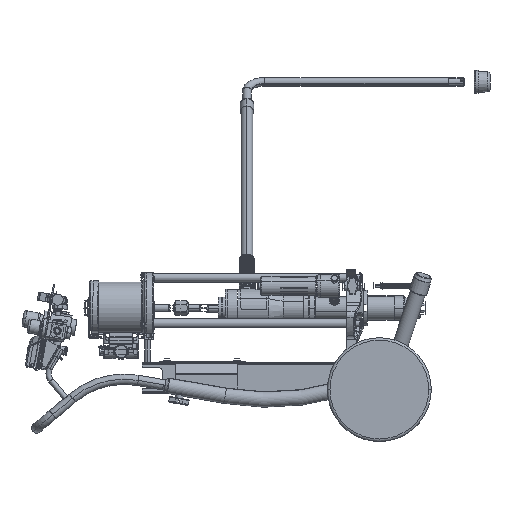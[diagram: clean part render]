
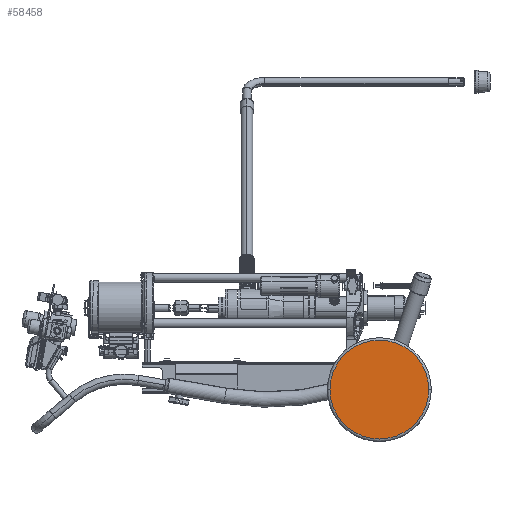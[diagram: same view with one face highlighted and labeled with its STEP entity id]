
A CAD part, left-side view. The second image highlights one B-rep face of the part: STEP entity #58458.
In plain terms, the highlighted planar face has unit normal (-1, 0, 0).
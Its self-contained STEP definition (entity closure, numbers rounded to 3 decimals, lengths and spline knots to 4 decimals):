
#58227=CARTESIAN_POINT('',(-10.095,-13.969,-2.6305));
#58228=DIRECTION('',(-1.,0.,0.));
#58229=DIRECTION('',(0.,1.,0.));
#58230=AXIS2_PLACEMENT_3D('',#58227,#58228,#58229);
#58232=CARTESIAN_POINT('',(-10.095,-13.969,-2.6305));
#58233=DIRECTION('',(1.,0.,0.));
#58234=DIRECTION('',(0.,1.,0.));
#58235=AXIS2_PLACEMENT_3D('',#58232,#58233,#58234);
#58305=CARTESIAN_POINT('',(-10.095,-9.194,-2.6305));
#58306=VERTEX_POINT('',#58305);
#58313=CARTESIAN_POINT('',(-10.095,-18.744,-2.6305));
#58314=VERTEX_POINT('',#58313);
#58447=CARTESIAN_POINT('',(-10.095,-13.969,-2.6305));
#58448=DIRECTION('',(1.,0.,0.));
#58449=DIRECTION('',(0.,-1.,0.));
#58450=AXIS2_PLACEMENT_3D('',#58447,#58448,#58449);
#58451=PLANE('',#58450);
#58453=ORIENTED_EDGE('',*,*,#58452,.F.);
#58455=ORIENTED_EDGE('',*,*,#58454,.T.);
#58456=EDGE_LOOP('',(#58453,#58455));
#58457=FACE_OUTER_BOUND('',#58456,.F.);
#58458=ADVANCED_FACE('',(#58457),#58451,.F.);
#58231=CIRCLE('',#58230,4.775);
#58236=CIRCLE('',#58235,4.775);
#58452=EDGE_CURVE('',#58306,#58314,#58231,.T.);
#58454=EDGE_CURVE('',#58306,#58314,#58236,.T.);
